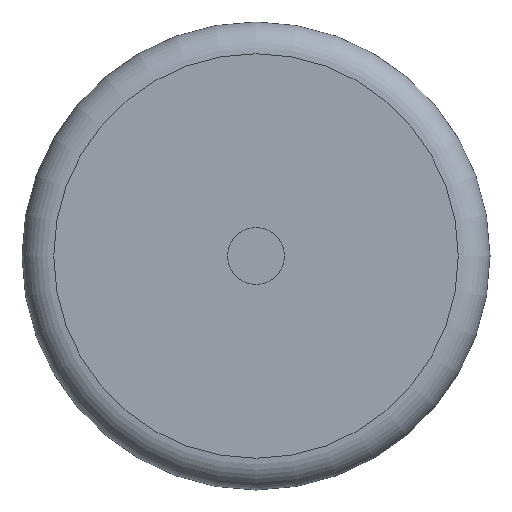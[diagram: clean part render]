
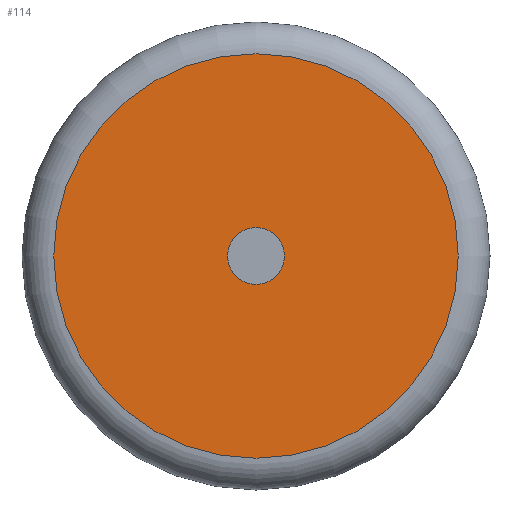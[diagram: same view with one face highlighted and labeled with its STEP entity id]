
A CAD part, left-side view. The second image highlights one B-rep face of the part: STEP entity #114.
In plain terms, the highlighted planar face has unit normal (-1, 0, 0).
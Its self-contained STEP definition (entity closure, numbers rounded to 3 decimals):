
#30=ORIENTED_EDGE('',*,*,#47,.T.);
#31=ORIENTED_EDGE('',*,*,#46,.F.);
#46=EDGE_CURVE('',#55,#55,#64,.T.);
#47=EDGE_CURVE('',#56,#56,#65,.T.);
#55=VERTEX_POINT('',#202);
#56=VERTEX_POINT('',#205);
#64=CIRCLE('',#139,17.);
#65=CIRCLE('',#141,121.);
#75=EDGE_LOOP('',(#30));
#76=EDGE_LOOP('',(#31));
#93=FACE_BOUND('',#75,.T.);
#94=FACE_BOUND('',#76,.T.);
#109=PLANE('',#140);
#114=ADVANCED_FACE('',(#93,#94),#109,.T.);
#139=AXIS2_PLACEMENT_3D('',#201,#165,#166);
#140=AXIS2_PLACEMENT_3D('',#203,#167,#168);
#141=AXIS2_PLACEMENT_3D('',#204,#169,#170);
#165=DIRECTION('',(-1.,0.,0.));
#166=DIRECTION('',(0.,0.,1.));
#167=DIRECTION('',(-1.,0.,0.));
#168=DIRECTION('',(0.,0.,1.));
#169=DIRECTION('',(-1.,0.,0.));
#170=DIRECTION('',(0.,0.,1.));
#201=CARTESIAN_POINT('',(-86.5,0.,0.));
#202=CARTESIAN_POINT('',(-86.5,0.,17.));
#203=CARTESIAN_POINT('',(-86.5,0.,121.));
#204=CARTESIAN_POINT('',(-86.5,0.,0.));
#205=CARTESIAN_POINT('',(-86.5,0.,121.));
